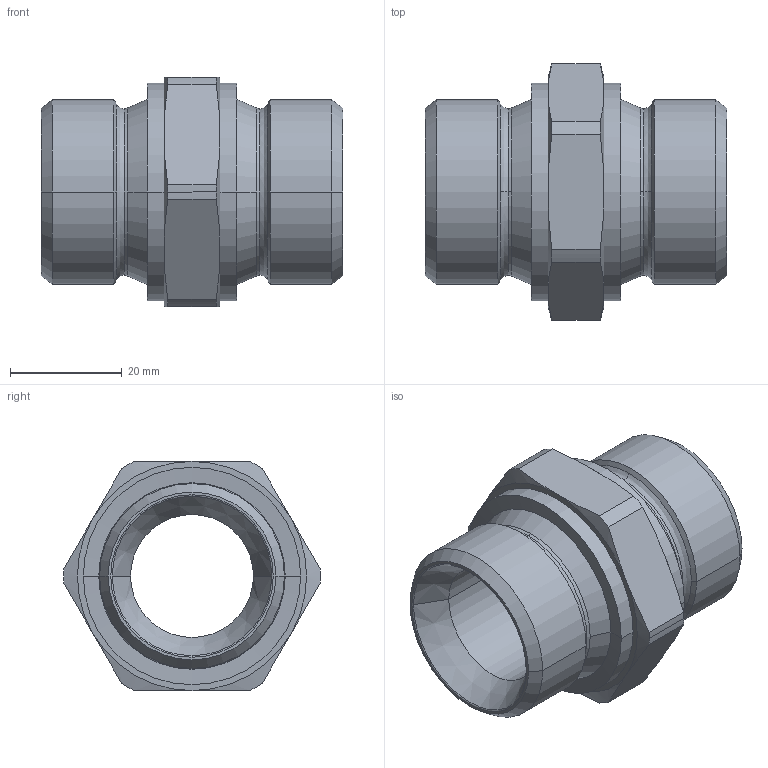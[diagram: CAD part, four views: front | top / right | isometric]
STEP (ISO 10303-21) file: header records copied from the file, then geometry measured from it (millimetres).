
FILE_DESCRIPTION((''),'2;1');
FILE_NAME('300522.stp','2006-09-11T08:13:27',(''),(''),'AutoCAD STEP 2000i','AutoCAD 2000i',', , ');
FILE_SCHEMA(('CONFIG_CONTROL_DESIGN'));
Length unit declared in the file: millimetre
Products named in the file (2): 300522.0; CHIAVE SMUSSATA#0
Assembly tree (1 placements, depth 2):
  300522.0
    CHIAVE SMUSSATA#0
Bounding box: 54 x 45.9 x 41 mm (x, y, z)
Volume: 30713.6 mm3; surface area: 11545.1 mm2
Topology: 1 solids, 1 shells, 72 faces, 170 edges, 102 vertices
Faces by surface type: cone 32, cylinder 18, plane 10, bspline 8, torus 4
Entity records: 2493 total; most frequent: CARTESIAN_POINT 746, DIRECTION 380, ORIENTED_EDGE 340, EDGE_CURVE 170, AXIS2_PLACEMENT_3D 168, VERTEX_POINT 102, CIRCLE 102, EDGE_LOOP 76
